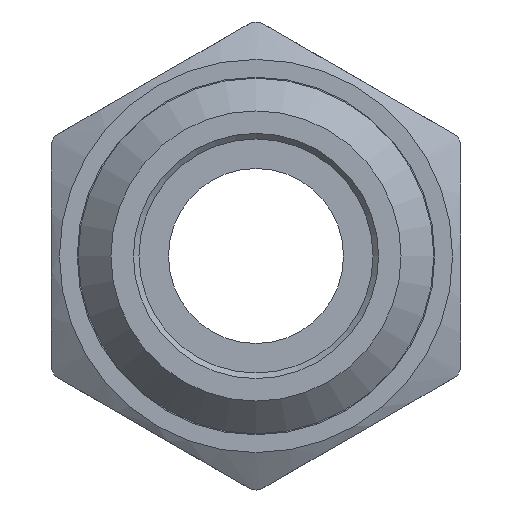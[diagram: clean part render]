
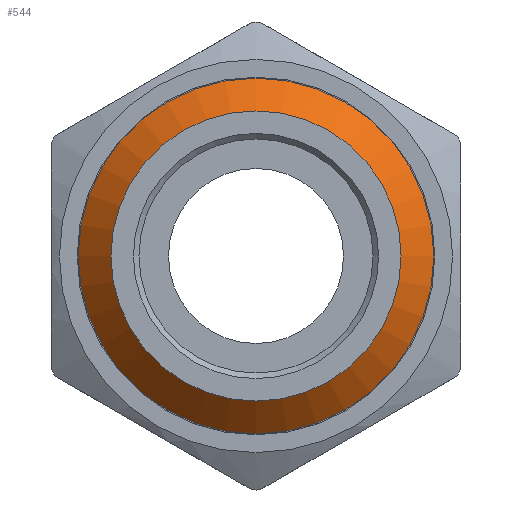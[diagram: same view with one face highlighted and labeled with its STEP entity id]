
A CAD part, front view. The second image highlights one B-rep face of the part: STEP entity #544.
In plain terms, the highlighted conical face has half-angle 45 degrees and reference radius 4.381 mm.
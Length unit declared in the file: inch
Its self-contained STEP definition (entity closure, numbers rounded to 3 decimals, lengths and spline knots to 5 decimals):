
#57=CIRCLE('',#607,0.155);
#66=CIRCLE('',#622,0.19);
#67=CIRCLE('',#623,0.19);
#82=CONICAL_SURFACE('',#621,0.1725,0.785);
#106=FACE_OUTER_BOUND('',#141,.T.);
#141=EDGE_LOOP('',(#463,#464,#465,#466,#467));
#171=LINE('',#973,#195);
#195=VECTOR('',#772,0.1725);
#249=VERTEX_POINT('',#947);
#257=VERTEX_POINT('',#972);
#258=VERTEX_POINT('',#974);
#320=EDGE_CURVE('',#249,#249,#57,.T.);
#331=EDGE_CURVE('',#249,#257,#171,.T.);
#332=EDGE_CURVE('',#257,#258,#66,.T.);
#333=EDGE_CURVE('',#258,#257,#67,.T.);
#463=ORIENTED_EDGE('',*,*,#320,.T.);
#464=ORIENTED_EDGE('',*,*,#331,.T.);
#465=ORIENTED_EDGE('',*,*,#332,.T.);
#466=ORIENTED_EDGE('',*,*,#333,.T.);
#467=ORIENTED_EDGE('',*,*,#331,.F.);
#544=ADVANCED_FACE('',(#106),#82,.T.);
#607=AXIS2_PLACEMENT_3D('',#948,#740,#741);
#621=AXIS2_PLACEMENT_3D('',#971,#770,#771);
#622=AXIS2_PLACEMENT_3D('',#975,#773,#774);
#623=AXIS2_PLACEMENT_3D('',#976,#775,#776);
#740=DIRECTION('center_axis',(0.,1.,0.));
#741=DIRECTION('ref_axis',(0.,0.,1.));
#770=DIRECTION('center_axis',(0.,1.,0.));
#771=DIRECTION('ref_axis',(0.,0.,1.));
#772=DIRECTION('',(0.,0.707,-0.707));
#773=DIRECTION('center_axis',(0.,-1.,0.));
#774=DIRECTION('ref_axis',(0.,0.,1.));
#775=DIRECTION('center_axis',(0.,-1.,0.));
#776=DIRECTION('ref_axis',(0.,0.,1.));
#947=CARTESIAN_POINT('',(0.,0.,-0.155));
#948=CARTESIAN_POINT('Origin',(0.,0.,0.));
#971=CARTESIAN_POINT('Origin',(0.,0.0175,0.));
#972=CARTESIAN_POINT('',(0.,0.035,-0.19));
#973=CARTESIAN_POINT('',(0.,0.0175,-0.1725));
#974=CARTESIAN_POINT('',(0.,0.035,0.19));
#975=CARTESIAN_POINT('Origin',(0.,0.035,0.));
#976=CARTESIAN_POINT('Origin',(0.,0.035,0.));
